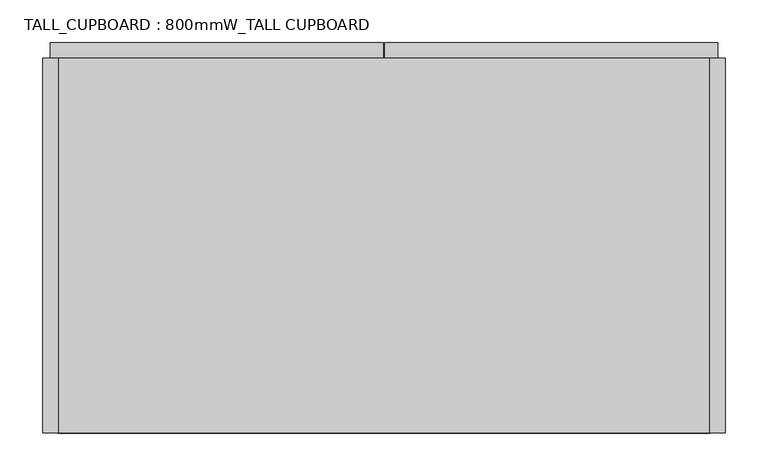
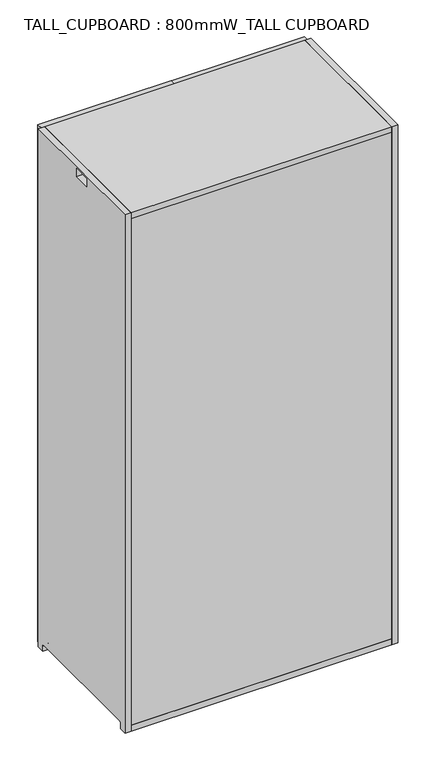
"""IFC4 building model written with IfcOpenShell, lengths in millimetres: furniture geometry, TALL_CUPBOARD : 800mmW_TALL CUPBOARD."""

from ifc_helpers import new_model, si_unit, point, frame, frame_2d, origin, place, context, project, spatial, polyline, circle_curve, trimmed, segment, composite_curve, outline, extrude, source, transform, mapped, element, save
from ifc_brep_helpers import plane_surface, revolved_surface, advanced_brep


def tall_cupboard_800mmw_tall_cupboard_38b00c6f(model_context):
    return source(origin(), model_context, "Body", "SolidModel", [
        extrude(outline(composite_curve([segment(polyline([(220.0, 1605.0), (220.0, 0.0), (198.0, 0.0), (198.0, 17.0)]), True, "CONTINUOUS"), segment(trimmed(circle_curve(frame_2d((194.0, 17.0)), 4.0), [point((198.0, 17.0))], [point((194.0, 21.0))], True, "CARTESIAN"), True, "CONTINUOUS"), segment(polyline([(194.0, 21.0), (-194.0, 21.0)]), True, "CONTINUOUS"), segment(trimmed(circle_curve(frame_2d((-194.0, 17.0)), 4.0), [point((-194.0, 21.0))], [point((-198.0, 17.0))], True, "CARTESIAN"), True, "CONTINUOUS"), segment(polyline([(-198.0, 17.0), (-198.0, 0.0), (-220.0, 0.0), (-220.0, 1605.0), (220.0, 1605.0)]), True, "CONTINUOUS")], self_intersect=False), holes=[polyline([(26.0, 1600.0), (-26.0, 1600.0), (-26.0, 1575.0), (26.0, 1575.0), (26.0, 1600.0)])]), frame((-400.0, 0.0, 0.0), z_axis=(1.0, 0.0, 0.0), x_axis=(0.0, 1.0, 0.0)), (0.0, 0.0, 1.0), 18.0),
        advanced_brep(
        [(382.0, -220.0, 18.0), (382.0, 220.0, 18.0), (-382.0, 220.0, 18.0), (-382.0, 197.8729833, 18.0), (-376.1019215, 197.8729833, 18.0), (-376.1019215, -197.8729833, 18.0), (-382.0, -197.8729833, 18.0), (-382.0, -220.0, 18.0), (382.0, -220.0, 0.0), (-382.0, -220.0, 0.0), (-382.0, -198.0, 0.0), (-376.1019215, -198.0, 0.0), (-376.1019215, 198.0, 0.0), (-382.0, 198.0, 0.0), (-382.0, 220.0, 0.0), (382.0, 220.0, 0.0), (-382.0, -198.0, 17.0), (-382.0, 198.0, 17.0), (-376.1019215, -198.0, 17.0), (-376.1019215, 198.0, 17.0)],
        [
            (0, 1),
            (1, 2),
            (2, 3),
            (3, 4),
            (4, 5),
            (5, 6),
            (6, 7),
            (7, 0),
            (8, 9),
            (9, 10),
            (10, 11),
            (11, 12),
            (12, 13),
            (13, 14),
            (14, 15),
            (15, 8),
            (7, 9),
            (8, 0),
            (6, 16, circle_curve(frame((-382.0, -194.0, 17.0), z_axis=(1.0, 0.0, 0.0), x_axis=(0.0, -1.0, 0.0)), 4.0)),
            (16, 10),
            (13, 17),
            (17, 3, circle_curve(frame((-382.0, 194.0, 17.0), z_axis=(1.0, 0.0, 0.0), x_axis=(0.0, -1.0, 0.0)), 4.0)),
            (2, 14),
            (1, 15),
            (18, 5, circle_curve(frame((-376.1019215, -194.0, 17.0), z_axis=(-1.0, 0.0, 0.0), x_axis=(0.0, -1.0, 0.0)), 4.0)),
            (4, 19, circle_curve(frame((-376.1019215, 194.0, 17.0), z_axis=(-1.0, 0.0, 0.0), x_axis=(0.0, -1.0, 0.0)), 4.0)),
            (19, 12),
            (11, 18),
            (17, 19),
            (16, 18),
        ],
        [
            plane_surface(frame((-382.0, -220.0, 18.0), z_axis=(0.0, 0.0, 1.0), x_axis=(-1.0, 0.0, 0.0))),
            plane_surface(frame((-382.0, -220.0, 0.0), z_axis=(0.0, 0.0, -1.0), x_axis=(1.0, 0.0, 0.0))),
            plane_surface(frame((382.0, -220.0, 18.0), z_axis=(0.0, -1.0, 0.0), x_axis=(0.0, 0.0, -1.0))),
            plane_surface(frame((-382.0, -220.0, 18.0), z_axis=(-1.0, 0.0, 0.0), x_axis=(0.0, 0.0, -1.0))),
            plane_surface(frame((-382.0, 220.0, 18.0), z_axis=(0.0, 1.0, 0.0), x_axis=(0.0, 0.0, -1.0))),
            plane_surface(frame((382.0, 220.0, 18.0), z_axis=(1.0, 0.0, 0.0), x_axis=(0.0, 0.0, -1.0))),
            plane_surface(frame((-376.1019215, 190.0, 17.0), z_axis=(-1.0, 0.0, 0.0), x_axis=(0.0, 0.0, 1.0))),
            revolved_surface(polyline([(-376.1019215, 190.0, 17.0), (-382.0, 190.0, 17.0)]), (-406.0458228, 194.0, 17.0), (1.0, 0.0, 0.0)),
            plane_surface(frame((-376.1019215, 198.0, 17.0), z_axis=(0.0, -1.0, 0.0), x_axis=(-1.0, 0.0, 0.0))),
            plane_surface(frame((-376.1019215, -198.0, 0.0), z_axis=(0.0, 1.0, 0.0), x_axis=(-1.0, 0.0, 0.0))),
            revolved_surface(polyline([(-376.1019215, -198.0, 17.0), (-382.0, -198.0, 17.0)]), (-406.0458228, -194.0, 17.0), (1.0, 0.0, 0.0)),
        ],
        [
            (0, [[1, 2, 3, 4, 5, 6, 7, 8]]),
            (1, [[9, 10, 11, 12, 13, 14, 15, 16]]),
            (2, [[17, -9, 18, -8]]),
            (3, [[-7, 19, 20, -10, -17]]),
            (3, [[-14, 21, 22, -3, 23]]),
            (4, [[24, -15, -23, -2]]),
            (5, [[-18, -16, -24, -1]]),
            (6, [[25, -5, 26, 27, -12, 28]]),
            (7, [[-4, -22, 29, -26]]),
            (8, [[-29, -21, -13, -27]]),
            (9, [[-11, -20, 30, -28]]),
            (10, [[-30, -19, -6, -25]]),
        ],
    ),
        extrude(outline(composite_curve([segment(polyline([(220.0, 1605.0), (220.0, 0.0), (198.0, 0.0), (198.0, 17.0)]), True, "CONTINUOUS"), segment(trimmed(circle_curve(frame_2d((194.0, 17.0)), 4.0), [point((198.0, 17.0))], [point((194.0, 21.0))], True, "CARTESIAN"), True, "CONTINUOUS"), segment(polyline([(194.0, 21.0), (-194.0, 21.0)]), True, "CONTINUOUS"), segment(trimmed(circle_curve(frame_2d((-194.0, 17.0)), 4.0), [point((-194.0, 21.0))], [point((-198.0, 17.0))], True, "CARTESIAN"), True, "CONTINUOUS"), segment(polyline([(-198.0, 17.0), (-198.0, 0.0), (-220.0, 0.0), (-220.0, 1605.0), (220.0, 1605.0)]), True, "CONTINUOUS")], self_intersect=False), holes=[polyline([(26.0, 1600.0), (-26.0, 1600.0), (-26.0, 1575.0), (26.0, 1575.0), (26.0, 1600.0)])]), frame((382.0, 0.0, 0.0), z_axis=(1.0, 0.0, 0.0), x_axis=(0.0, 1.0, 0.0)), (0.0, 0.0, 1.0), 18.0),
        extrude(outline(polyline([(382.0, -220.0), (-382.0, -220.0), (-382.0, -202.0), (382.0, -202.0), (382.0, -220.0)])), frame((0.0, 0.0, 18.0), z_axis=(0.0, 0.0, 1.0), x_axis=(1.0, 0.0, 0.0)), (0.0, 0.0, 1.0), 1569.0),
        extrude(outline(polyline([(382.0, -202.0), (-382.0, -202.0), (-382.0, 220.0), (382.0, 220.0), (382.0, -202.0)])), frame((0.0, 0.0, 398.5), z_axis=(0.0, 0.0, 1.0), x_axis=(1.0, 0.0, 0.0)), (0.0, 0.0, 1.0), 18.0),
        extrude(outline(polyline([(382.0, -202.0), (-382.0, -202.0), (-382.0, 220.0), (382.0, 220.0), (382.0, -202.0)])), frame((0.0, 0.0, 793.5), z_axis=(0.0, 0.0, 1.0), x_axis=(1.0, 0.0, 0.0)), (0.0, 0.0, 1.0), 18.0),
        extrude(outline(polyline([(382.0, -202.0), (-382.0, -202.0), (-382.0, 220.0), (382.0, 220.0), (382.0, -202.0)])), frame((0.0, 0.0, 1188.5), z_axis=(0.0, 0.0, 1.0), x_axis=(1.0, 0.0, 0.0)), (0.0, 0.0, 1.0), 18.0),
        extrude(outline(polyline([(382.0, -220.0), (-382.0, -220.0), (-382.0, 220.0), (382.0, 220.0), (382.0, -220.0)])), frame((0.0, 0.0, 1587.0), z_axis=(0.0, 0.0, 1.0), x_axis=(1.0, 0.0, 0.0)), (0.0, 0.0, 1.0), 18.0),
        extrude(outline(polyline([(9.0, -202.0), (-9.0, -202.0), (-9.0, 220.0), (9.0, 220.0), (9.0, -202.0)])), frame((0.0, 0.0, 18.0), z_axis=(0.0, 0.0, 1.0), x_axis=(1.0, 0.0, 0.0)), (0.0, 0.0, 1.0), 1569.0),
        extrude(outline(polyline([(391.0, 220.0), (1.0, 220.0), (1.0, 238.0), (391.0, 238.0), (391.0, 220.0)])), frame((0.0, 0.0, 2.0), z_axis=(0.0, 0.0, 1.0), x_axis=(1.0, 0.0, 0.0)), (0.0, 0.0, 1.0), 799.5),
        extrude(outline(polyline([(391.0, 220.0), (1.0, 220.0), (1.0, 238.0), (391.0, 238.0), (391.0, 220.0)])), frame((0.0, 0.0, 803.5), z_axis=(0.0, 0.0, 1.0), x_axis=(1.0, 0.0, 0.0)), (0.0, 0.0, 1.0), 799.5),
        extrude(outline(polyline([(-391.0, 220.0), (-391.0, 238.0), (-1.0, 238.0), (-1.0, 220.0), (-391.0, 220.0)])), frame((0.0, 0.0, 2.0), z_axis=(0.0, 0.0, 1.0), x_axis=(1.0, 0.0, 0.0)), (0.0, 0.0, 1.0), 799.5),
        extrude(outline(polyline([(-391.0, 220.0), (-391.0, 238.0), (-1.0, 238.0), (-1.0, 220.0), (-391.0, 220.0)])), frame((0.0, 0.0, 803.5), z_axis=(0.0, 0.0, 1.0), x_axis=(1.0, 0.0, 0.0)), (0.0, 0.0, 1.0), 799.5),
    ])


if __name__ == "__main__":
    model = new_model("IFC4")
    model_context = context("Model", 3, world=origin())
    ifc_project = project(units=[si_unit("LENGTHUNIT", "METRE", prefix="MILLI")], contexts=[model_context])
    site = spatial("IfcSite", under=ifc_project)
    building = spatial("IfcBuilding", under=site)
    placement = place(None, origin())
    tall_cupboard_800mmw_tall_cupboard_shape = tall_cupboard_800mmw_tall_cupboard_38b00c6f(model_context)
    element("IfcFurniture", 1, ObjectType="TALL_CUPBOARD : 800mmW_TALL CUPBOARD", at=placement, inside=building, context=model_context, shape_type="MappedRepresentation", body=[
        mapped(tall_cupboard_800mmw_tall_cupboard_shape, transform((0.0, 0.0, 0.0), x_axis=(1.0, 0.0, 0.0), y_axis=(0.0, 1.0, 0.0), z_axis=(0.0, 0.0, 1.0))),
    ])
    save(model, "model.ifc")
